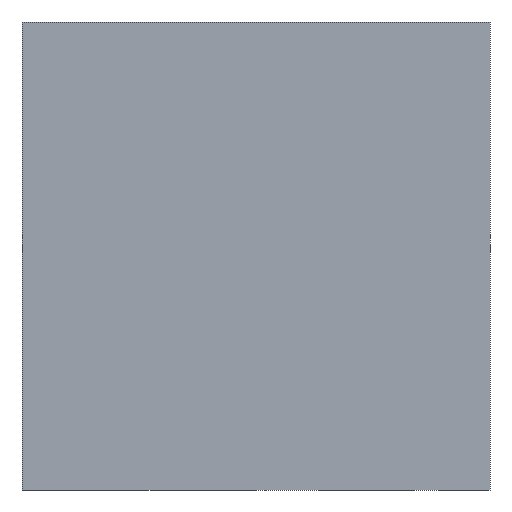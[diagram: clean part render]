
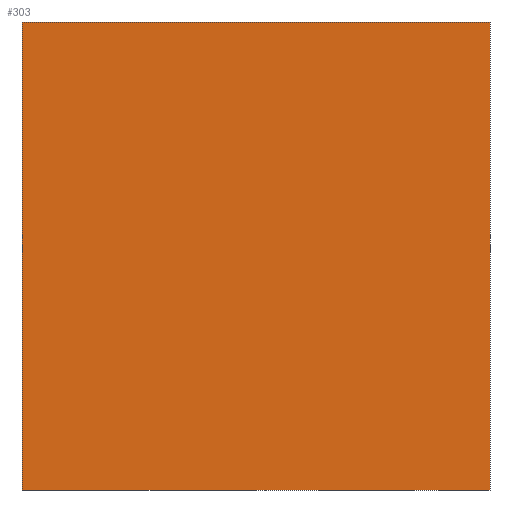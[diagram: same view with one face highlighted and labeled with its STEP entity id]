
A CAD part, left-side view. The second image highlights one B-rep face of the part: STEP entity #303.
In plain terms, the highlighted planar face has unit normal (-1, 0, 0).
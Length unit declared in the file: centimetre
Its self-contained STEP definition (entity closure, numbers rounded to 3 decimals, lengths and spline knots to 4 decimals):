
#4 = VECTOR ( 'NONE', #477, 100. ) ;
#64 = DIRECTION ( 'NONE',  ( 0., -1., 0. ) ) ;
#78 = FACE_OUTER_BOUND ( 'NONE', #396, .T. ) ;
#135 = CARTESIAN_POINT ( 'NONE',  ( 0., 0., 1000. ) ) ;
#137 = CARTESIAN_POINT ( 'NONE',  ( 0., 1000., 1000. ) ) ;
#170 = DIRECTION ( 'NONE',  ( 0., 0., -1. ) ) ;
#177 = CARTESIAN_POINT ( 'NONE',  ( 0., 1000., 1000. ) ) ;
#186 = CARTESIAN_POINT ( 'NONE',  ( 0., 0., 0. ) ) ;
#195 = VERTEX_POINT ( 'NONE', #186 ) ;
#227 = EDGE_CURVE ( 'NONE', #285, #195, #345, .T. ) ;
#247 = DIRECTION ( 'NONE',  ( 0., 0., -1. ) ) ;
#249 = DIRECTION ( 'NONE',  ( 0., 0., -1. ) ) ;
#256 = CARTESIAN_POINT ( 'NONE',  ( 0., 1000., 0. ) ) ;
#273 = LINE ( 'NONE', #338, #4 ) ;
#279 = LINE ( 'NONE', #633, #404 ) ;
#283 = VERTEX_POINT ( 'NONE', #256 ) ;
#285 = VERTEX_POINT ( 'NONE', #352 ) ;
#296 = VERTEX_POINT ( 'NONE', #406 ) ;
#303 = ADVANCED_FACE ( 'NONE', ( #78 ), #412, .F. ) ;
#323 = LINE ( 'NONE', #177, #586 ) ;
#338 = CARTESIAN_POINT ( 'NONE',  ( 0., 1000., 0. ) ) ;
#345 = LINE ( 'NONE', #135, #430 ) ;
#352 = CARTESIAN_POINT ( 'NONE',  ( 0., 0., 1000. ) ) ;
#378 = AXIS2_PLACEMENT_3D ( 'NONE', #137, #550, #249 ) ;
#396 = EDGE_LOOP ( 'NONE', ( #588, #443, #458, #606 ) ) ;
#404 = VECTOR ( 'NONE', #64, 100. ) ;
#406 = CARTESIAN_POINT ( 'NONE',  ( 0., 1000., 1000. ) ) ;
#412 = PLANE ( 'NONE',  #378 ) ;
#430 = VECTOR ( 'NONE', #247, 100. ) ;
#443 = ORIENTED_EDGE ( 'NONE', *, *, #227, .F. ) ;
#458 = ORIENTED_EDGE ( 'NONE', *, *, #505, .F. ) ;
#477 = DIRECTION ( 'NONE',  ( 0., -1., 0. ) ) ;
#489 = EDGE_CURVE ( 'NONE', #283, #195, #273, .T. ) ;
#500 = EDGE_CURVE ( 'NONE', #296, #283, #323, .T. ) ;
#505 = EDGE_CURVE ( 'NONE', #296, #285, #279, .T. ) ;
#550 = DIRECTION ( 'NONE',  ( 1., 0., 0. ) ) ;
#586 = VECTOR ( 'NONE', #170, 100. ) ;
#588 = ORIENTED_EDGE ( 'NONE', *, *, #489, .T. ) ;
#606 = ORIENTED_EDGE ( 'NONE', *, *, #500, .T. ) ;
#633 = CARTESIAN_POINT ( 'NONE',  ( 0., 1000., 1000. ) ) ;
